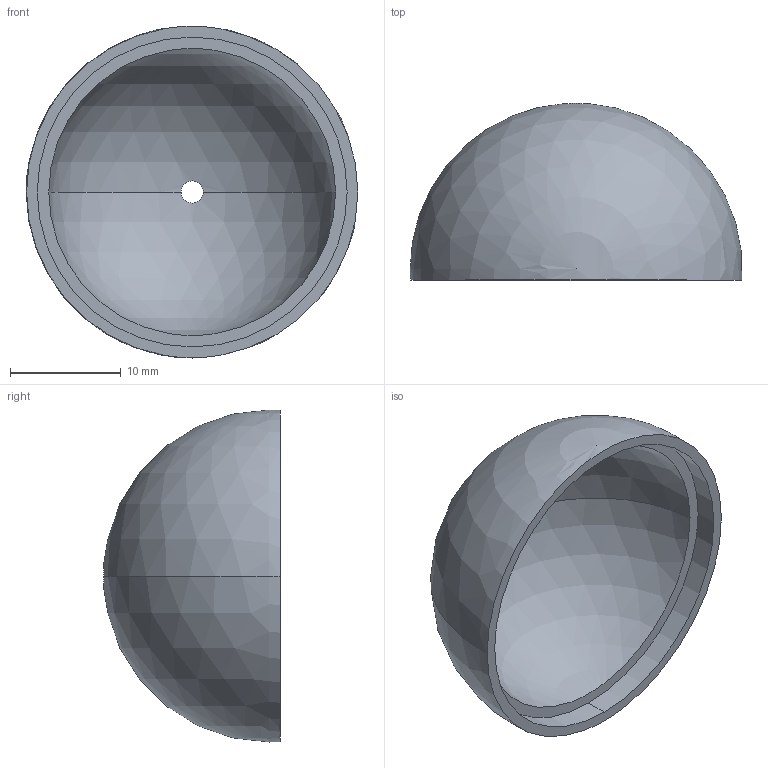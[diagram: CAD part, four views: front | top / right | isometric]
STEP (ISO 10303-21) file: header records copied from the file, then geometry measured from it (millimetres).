
FILE_DESCRIPTION (( 'STEP AP214' ), '1' );
FILE_NAME ('C6.STEP', '2016-02-27T11:57:19', ( '' ), ( '' ), 'SwSTEP 2.0', 'SolidWorks 2012', '' );
FILE_SCHEMA (( 'AUTOMOTIVE_DESIGN' ));
Length unit declared in the file: millimetre
Products named in the file (1): C6
Bounding box: 29.97 x 15.97 x 30 mm (x, y, z)
Volume: 2466.9 mm3; surface area: 2846.4 mm2
Topology: 1 solids, 1 shells, 10 faces, 29 edges, 19 vertices
Faces by surface type: cylinder 4, sphere 4, plane 2
Entity records: 346 total; most frequent: DIRECTION 66, CARTESIAN_POINT 51, ORIENTED_EDGE 48, AXIS2_PLACEMENT_3D 31, EDGE_CURVE 24, CIRCLE 20, VERTEX_POINT 16, EDGE_LOOP 12
